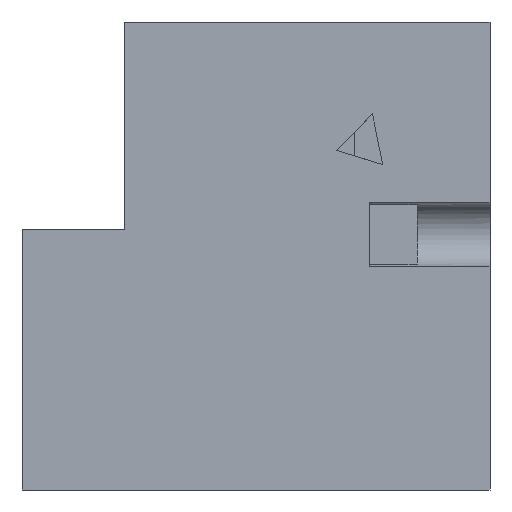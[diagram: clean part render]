
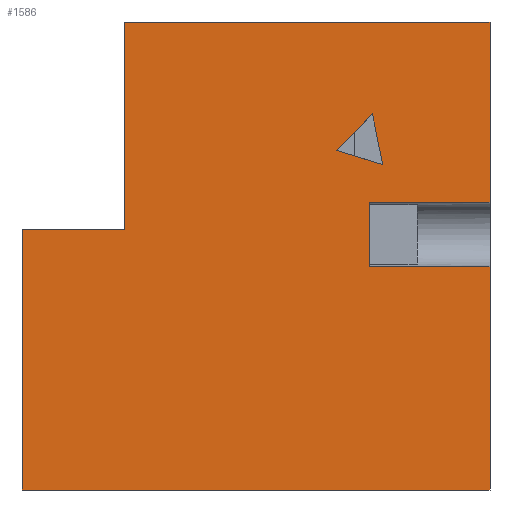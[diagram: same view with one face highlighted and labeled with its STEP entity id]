
A CAD part, left-side view. The second image highlights one B-rep face of the part: STEP entity #1586.
In plain terms, the highlighted planar face has unit normal (-1, 0, 0).
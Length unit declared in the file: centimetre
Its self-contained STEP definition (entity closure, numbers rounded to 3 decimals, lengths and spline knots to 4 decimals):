
#18 = CARTESIAN_POINT ( 'NONE',  ( 0., 0., 476.9684 ) ) ;
#35 = EDGE_CURVE ( 'NONE', #1445, #415, #736, .T. ) ;
#40 = LINE ( 'NONE', #456, #1565 ) ;
#52 = CARTESIAN_POINT ( 'NONE',  ( 0., 780.2019, 557.4246 ) ) ;
#88 = CARTESIAN_POINT ( 'NONE',  ( 0., 780.2019, 557.4246 ) ) ;
#94 = VERTEX_POINT ( 'NONE', #312 ) ;
#114 = ORIENTED_EDGE ( 'NONE', *, *, #739, .F. ) ;
#145 = ORIENTED_EDGE ( 'NONE', *, *, #1431, .F. ) ;
#148 = VERTEX_POINT ( 'NONE', #1603 ) ;
#165 = LINE ( 'NONE', #52, #705 ) ;
#171 = CARTESIAN_POINT ( 'NONE',  ( 0., 328.9568, 725.7214 ) ) ;
#178 = LINE ( 'NONE', #188, #1709 ) ;
#188 = CARTESIAN_POINT ( 'NONE',  ( 0., 251.0322, 803.6459 ) ) ;
#225 = VERTEX_POINT ( 'NONE', #1717 ) ;
#226 = DIRECTION ( 'NONE',  ( 0., 0.196, 0.981 ) ) ;
#235 = LINE ( 'NONE', #1064, #406 ) ;
#238 = ORIENTED_EDGE ( 'NONE', *, *, #1579, .F. ) ;
#239 = VECTOR ( 'NONE', #654, 100. ) ;
#249 = DIRECTION ( 'NONE',  ( 1., 0., 0. ) ) ;
#264 = DIRECTION ( 'NONE',  ( 0., -1., 0. ) ) ;
#275 = ORIENTED_EDGE ( 'NONE', *, *, #856, .F. ) ;
#278 = EDGE_CURVE ( 'NONE', #1665, #225, #1098, .T. ) ;
#288 = ORIENTED_EDGE ( 'NONE', *, *, #1418, .F. ) ;
#304 = CARTESIAN_POINT ( 'NONE',  ( 0., 229.398, 695.3534 ) ) ;
#312 = CARTESIAN_POINT ( 'NONE',  ( 0., 1000., 0. ) ) ;
#334 = LINE ( 'NONE', #88, #1143 ) ;
#348 = DIRECTION ( 'NONE',  ( 0., -1., 0. ) ) ;
#403 = CARTESIAN_POINT ( 'NONE',  ( 0., 1000., 1000. ) ) ;
#406 = VECTOR ( 'NONE', #763, 100. ) ;
#415 = VERTEX_POINT ( 'NONE', #304 ) ;
#416 = CARTESIAN_POINT ( 'NONE',  ( 0., 257.8657, 476.9684 ) ) ;
#456 = CARTESIAN_POINT ( 'NONE',  ( 0., 1000., 0. ) ) ;
#472 = CARTESIAN_POINT ( 'NONE',  ( 0., 257.8657, 614.8823 ) ) ;
#476 = VECTOR ( 'NONE', #1435, 100. ) ;
#506 = CARTESIAN_POINT ( 'NONE',  ( 0., 229.398, 695.3534 ) ) ;
#531 = CARTESIAN_POINT ( 'NONE',  ( 0., 257.8657, 614.8823 ) ) ;
#532 = LINE ( 'NONE', #1086, #584 ) ;
#548 = CARTESIAN_POINT ( 'NONE',  ( 0., 257.8657, 476.9684 ) ) ;
#561 = EDGE_LOOP ( 'NONE', ( #610, #275, #1014, #1509, #1033, #145, #238, #114, #814, #1149 ) ) ;
#568 = CARTESIAN_POINT ( 'NONE',  ( 0., 1000., 557.4246 ) ) ;
#584 = VECTOR ( 'NONE', #1376, 100. ) ;
#595 = EDGE_CURVE ( 'NONE', #415, #803, #1584, .T. ) ;
#610 = ORIENTED_EDGE ( 'NONE', *, *, #1636, .F. ) ;
#654 = DIRECTION ( 'NONE',  ( 0., 0., -1. ) ) ;
#656 = DIRECTION ( 'NONE',  ( 0., -1., 0. ) ) ;
#664 = LINE ( 'NONE', #548, #1193 ) ;
#689 = DIRECTION ( 'NONE',  ( 0., 0., 1. ) ) ;
#705 = VECTOR ( 'NONE', #689, 100. ) ;
#736 = LINE ( 'NONE', #171, #1534 ) ;
#737 = DIRECTION ( 'NONE',  ( 0., 0.707, -0.707 ) ) ;
#739 = EDGE_CURVE ( 'NONE', #1665, #1226, #947, .T. ) ;
#763 = DIRECTION ( 'NONE',  ( 0., 0., -1. ) ) ;
#803 = VERTEX_POINT ( 'NONE', #956 ) ;
#811 = DIRECTION ( 'NONE',  ( 0., 0., -1. ) ) ;
#814 = ORIENTED_EDGE ( 'NONE', *, *, #278, .T. ) ;
#830 = DIRECTION ( 'NONE',  ( 0., 0., -1. ) ) ;
#856 = EDGE_CURVE ( 'NONE', #1752, #993, #165, .T. ) ;
#924 = CARTESIAN_POINT ( 'NONE',  ( 0., 257.8657, 1000. ) ) ;
#947 = LINE ( 'NONE', #924, #239 ) ;
#951 = CARTESIAN_POINT ( 'NONE',  ( 0., 0., 1000. ) ) ;
#956 = CARTESIAN_POINT ( 'NONE',  ( 0., 251.0322, 803.6459 ) ) ;
#993 = VERTEX_POINT ( 'NONE', #1308 ) ;
#1006 = LINE ( 'NONE', #1296, #476 ) ;
#1014 = ORIENTED_EDGE ( 'NONE', *, *, #1076, .F. ) ;
#1033 = ORIENTED_EDGE ( 'NONE', *, *, #1733, .T. ) ;
#1060 = ORIENTED_EDGE ( 'NONE', *, *, #595, .F. ) ;
#1064 = CARTESIAN_POINT ( 'NONE',  ( 0., 0., 1000. ) ) ;
#1072 = FACE_BOUND ( 'NONE', #1620, .T. ) ;
#1076 = EDGE_CURVE ( 'NONE', #1772, #1752, #334, .T. ) ;
#1086 = CARTESIAN_POINT ( 'NONE',  ( 0., 1000., 1000. ) ) ;
#1098 = LINE ( 'NONE', #531, #1419 ) ;
#1114 = ORIENTED_EDGE ( 'NONE', *, *, #35, .F. ) ;
#1143 = VECTOR ( 'NONE', #348, 100. ) ;
#1149 = ORIENTED_EDGE ( 'NONE', *, *, #1538, .F. ) ;
#1186 = CARTESIAN_POINT ( 'NONE',  ( 0., 0., 1000. ) ) ;
#1193 = VECTOR ( 'NONE', #264, 100. ) ;
#1197 = VECTOR ( 'NONE', #226, 100. ) ;
#1211 = LINE ( 'NONE', #951, #1476 ) ;
#1226 = VERTEX_POINT ( 'NONE', #416 ) ;
#1296 = CARTESIAN_POINT ( 'NONE',  ( 0., 1000., 1000. ) ) ;
#1308 = CARTESIAN_POINT ( 'NONE',  ( 0., 780.2019, 1000. ) ) ;
#1369 = PLANE ( 'NONE',  #1672 ) ;
#1376 = DIRECTION ( 'NONE',  ( 0., -1., 0. ) ) ;
#1406 = CARTESIAN_POINT ( 'NONE',  ( 0., 780.2019, 557.4246 ) ) ;
#1418 = EDGE_CURVE ( 'NONE', #803, #1445, #178, .T. ) ;
#1419 = VECTOR ( 'NONE', #656, 100. ) ;
#1431 = EDGE_CURVE ( 'NONE', #1758, #148, #235, .T. ) ;
#1435 = DIRECTION ( 'NONE',  ( 0., 0., -1. ) ) ;
#1445 = VERTEX_POINT ( 'NONE', #1749 ) ;
#1454 = VERTEX_POINT ( 'NONE', #1186 ) ;
#1476 = VECTOR ( 'NONE', #811, 100. ) ;
#1490 = FACE_OUTER_BOUND ( 'NONE', #561, .T. ) ;
#1509 = ORIENTED_EDGE ( 'NONE', *, *, #1757, .T. ) ;
#1534 = VECTOR ( 'NONE', #1552, 100. ) ;
#1538 = EDGE_CURVE ( 'NONE', #1454, #225, #1211, .T. ) ;
#1551 = DIRECTION ( 'NONE',  ( 0., -1., 0. ) ) ;
#1552 = DIRECTION ( 'NONE',  ( 0., -0.956, -0.292 ) ) ;
#1565 = VECTOR ( 'NONE', #1551, 100. ) ;
#1579 = EDGE_CURVE ( 'NONE', #1226, #1758, #664, .T. ) ;
#1584 = LINE ( 'NONE', #506, #1197 ) ;
#1586 = ADVANCED_FACE ( 'NONE', ( #1072, #1490 ), #1369, .F. ) ;
#1603 = CARTESIAN_POINT ( 'NONE',  ( 0., 0., 0. ) ) ;
#1620 = EDGE_LOOP ( 'NONE', ( #1060, #1114, #288 ) ) ;
#1636 = EDGE_CURVE ( 'NONE', #993, #1454, #532, .T. ) ;
#1665 = VERTEX_POINT ( 'NONE', #472 ) ;
#1672 = AXIS2_PLACEMENT_3D ( 'NONE', #403, #249, #830 ) ;
#1709 = VECTOR ( 'NONE', #737, 100. ) ;
#1717 = CARTESIAN_POINT ( 'NONE',  ( 0., 0., 614.8823 ) ) ;
#1733 = EDGE_CURVE ( 'NONE', #94, #148, #40, .T. ) ;
#1749 = CARTESIAN_POINT ( 'NONE',  ( 0., 328.9568, 725.7214 ) ) ;
#1752 = VERTEX_POINT ( 'NONE', #1406 ) ;
#1757 = EDGE_CURVE ( 'NONE', #1772, #94, #1006, .T. ) ;
#1758 = VERTEX_POINT ( 'NONE', #18 ) ;
#1772 = VERTEX_POINT ( 'NONE', #568 ) ;
